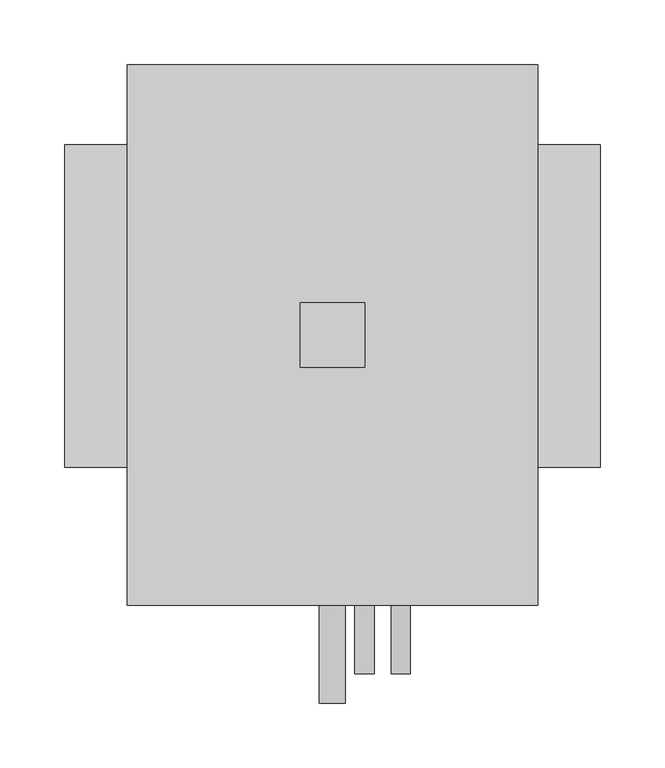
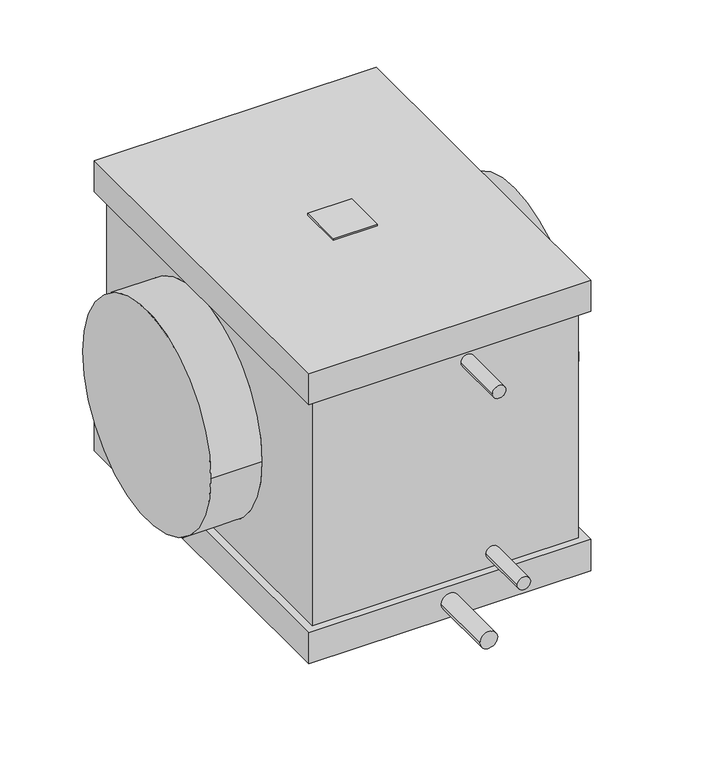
"""IFC4 building model written with IfcOpenShell, lengths in millimetres: proxy geometry, KORF_Охладитель_Водяной_Круглый_Левый_KWLO : KWLO 250/2."""

from ifc_helpers import new_model, si_unit, point, frame, frame_2d, origin, place, context, project, spatial, polyline, circle_curve, trimmed, segment, composite_curve, outline, extrude, source, transform, mapped, element, save
from ifc_brep_helpers import plane_surface, cylinder_surface, advanced_brep


def mechanical_equipment_b719484e(model_context):
    return source(origin(), model_context, "Body", "SolidModel", [
        extrude(outline(polyline([(232.5, 2.5), (232.5, -47.5), (182.5, -47.5), (182.5, 2.5), (232.5, 2.5)])), frame((0.0, 0.0, 173.0), z_axis=(0.0, 0.0, 1.0), x_axis=(1.0, 0.0, 0.0)), (0.0, 0.0, 1.0), 2.0),
        advanced_brep(
        [(415.0, -125.0, 0.0), (415.0, 125.0, 0.0), (0.0, -125.0, 0.0), (0.0, 125.0, 0.0), (357.5, -125.0, 0.0), (357.5, 125.0, 0.0), (57.5, 125.0, 0.0), (57.5, -125.0, 0.0), (357.5, -223.0, -136.0), (357.5, 178.0, -136.0), (357.5, 178.0, 136.0), (357.5, -223.0, 136.0), (57.5, 178.0, -136.0), (57.5, -223.0, -136.0), (57.5, -223.0, 136.0), (57.5, 178.0, 136.0), (366.5, 187.0, -173.0), (366.5, -232.0, -173.0), (48.5, -232.0, -173.0), (48.5, 187.0, -173.0), (366.5, -232.0, 173.0), (366.5, 187.0, 173.0), (48.5, 187.0, 173.0), (48.5, -232.0, 173.0), (366.5, 187.0, -136.0), (366.5, -232.0, -136.0), (48.5, -232.0, -136.0), (48.5, 187.0, -136.0), (366.5, 187.0, 136.0), (366.5, -232.0, 136.0), (48.5, -232.0, 136.0), (48.5, 187.0, 136.0)],
        [
            (0, 1, circle_curve(frame((415.0, 0.0, 0.0), z_axis=(1.0, 0.0, 0.0), x_axis=(0.0, 1.0, 0.0)), 125.0)),
            (1, 0, circle_curve(frame((415.0, 0.0, 0.0), z_axis=(1.0, 0.0, 0.0), x_axis=(0.0, 1.0, 0.0)), 125.0)),
            (2, 3, circle_curve(frame((0.0, 0.0, 0.0), z_axis=(-1.0, 0.0, 0.0), x_axis=(0.0, 1.0, 0.0)), 125.0)),
            (3, 2, circle_curve(frame((0.0, 0.0, 0.0), z_axis=(-1.0, 0.0, 0.0), x_axis=(0.0, 1.0, 0.0)), 125.0)),
            (0, 4),
            (4, 5, circle_curve(frame((357.5, 0.0, 0.0), z_axis=(1.0, 0.0, 0.0), x_axis=(0.0, 1.0, 0.0)), 125.0)),
            (5, 1),
            (3, 6),
            (6, 7, circle_curve(frame((57.5, 0.0, 0.0), z_axis=(-1.0, 0.0, 0.0), x_axis=(0.0, 1.0, 0.0)), 125.0)),
            (7, 2),
            (5, 4, circle_curve(frame((357.5, 0.0, 0.0), z_axis=(1.0, 0.0, 0.0), x_axis=(0.0, 1.0, 0.0)), 125.0)),
            (7, 6, circle_curve(frame((57.5, 0.0, 0.0), z_axis=(-1.0, 0.0, 0.0), x_axis=(0.0, 1.0, 0.0)), 125.0)),
            (8, 9),
            (9, 10),
            (10, 11),
            (11, 8),
            (12, 13),
            (13, 14),
            (14, 15),
            (15, 12),
            (13, 8),
            (11, 14),
            (16, 17),
            (17, 18),
            (18, 19),
            (19, 16),
            (9, 12),
            (15, 10),
            (20, 21),
            (21, 22),
            (22, 23),
            (23, 20),
            (16, 24),
            (24, 25),
            (25, 17),
            (25, 26),
            (26, 18),
            (26, 27),
            (27, 19),
            (24, 27),
            (28, 21),
            (20, 29),
            (29, 28),
            (23, 30),
            (30, 29),
            (22, 31),
            (31, 30),
            (28, 31),
        ],
        [
            plane_surface(frame((415.0, 125.0, 0.0), z_axis=(1.0, 0.0, 0.0), x_axis=(0.0, 0.0, 1.0))),
            plane_surface(frame((0.0, 125.0, 0.0), z_axis=(-1.0, 0.0, 0.0), x_axis=(0.0, 0.0, -1.0))),
            cylinder_surface(frame((0.0, 0.0, 0.0), z_axis=(1.0, 0.0, 0.0), x_axis=(0.0, 1.0, 0.0)), 125.0),
            plane_surface(frame((357.5, -223.0, 173.0), z_axis=(1.0, 0.0, 0.0), x_axis=(0.0, 0.0, -1.0))),
            plane_surface(frame((57.5, -223.0, 173.0), z_axis=(-1.0, 0.0, 0.0), x_axis=(0.0, 0.0, 1.0))),
            plane_surface(frame((357.5, -223.0, 173.0), z_axis=(0.0, -1.0, 0.0), x_axis=(-1.0, 0.0, 0.0))),
            plane_surface(frame((357.5, -223.0, -173.0), z_axis=(0.0, 0.0, -1.0), x_axis=(-1.0, 0.0, 0.0))),
            plane_surface(frame((357.5, 178.0, -173.0), z_axis=(0.0, 1.0, 0.0), x_axis=(-1.0, 0.0, 0.0))),
            plane_surface(frame((357.5, 178.0, 173.0), z_axis=(0.0, 0.0, 1.0), x_axis=(-1.0, 0.0, 0.0))),
            plane_surface(frame((366.5, 187.0, -136.0), z_axis=(1.0, 0.0, 0.0), x_axis=(0.0, -1.0, 0.0))),
            plane_surface(frame((366.5, -232.0, -136.0), z_axis=(0.0, -1.0, 0.0), x_axis=(-1.0, 0.0, 0.0))),
            plane_surface(frame((48.5, -232.0, -136.0), z_axis=(-1.0, 0.0, 0.0), x_axis=(0.0, 1.0, 0.0))),
            plane_surface(frame((57.5, 178.0, -136.0), z_axis=(0.0, 0.0, 1.0), x_axis=(1.0, 0.0, 0.0))),
            plane_surface(frame((48.5, 187.0, -136.0), z_axis=(0.0, 1.0, 0.0), x_axis=(1.0, 0.0, 0.0))),
            plane_surface(frame((366.5, 187.0, 173.0), z_axis=(1.0, 0.0, 0.0), x_axis=(0.0, -1.0, 0.0))),
            plane_surface(frame((366.5, -232.0, 173.0), z_axis=(0.0, -1.0, 0.0), x_axis=(-1.0, 0.0, 0.0))),
            plane_surface(frame((48.5, -232.0, 173.0), z_axis=(-1.0, 0.0, 0.0), x_axis=(0.0, 1.0, 0.0))),
            plane_surface(frame((48.5, 187.0, 173.0), z_axis=(0.0, 1.0, 0.0), x_axis=(1.0, 0.0, 0.0))),
            plane_surface(frame((48.5, 187.0, 136.0), z_axis=(0.0, 0.0, -1.0), x_axis=(1.0, 0.0, 0.0))),
        ],
        [
            (0, [[1, 2]]),
            (1, [[3, 4]]),
            (2, [[-1, 5, 6, 7]]),
            (2, [[-4, 8, 9, 10]]),
            (2, [[-2, -7, 11, -5]]),
            (2, [[-3, -10, 12, -8]]),
            (3, [[13, 14, 15, 16], [-6, -11]]),
            (4, [[17, 18, 19, 20], [-9, -12]]),
            (5, [[21, -16, 22, -18]]),
            (6, [[23, 24, 25, 26]]),
            (7, [[27, -20, 28, -14]]),
            (8, [[29, 30, 31, 32]]),
            (9, [[33, 34, 35, -23]]),
            (10, [[-35, 36, 37, -24]]),
            (11, [[-37, 38, 39, -25]]),
            (12, [[-34, 40, -38, -36], [-13, -21, -17, -27]]),
            (13, [[-33, -26, -39, -40]]),
            (14, [[41, -29, 42, 43]]),
            (15, [[-42, -32, 44, 45]]),
            (16, [[-44, -31, 46, 47]]),
            (17, [[-41, 48, -46, -30]]),
            (18, [[-43, -45, -47, -48], [-15, -28, -19, -22]]),
        ],
    ),
        extrude(outline(composite_curve([segment(trimmed(circle_curve(frame_2d((-119.0, 260.5)), 7.5), [point((-119.0, 253.0))], [point((-119.0, 268.0))], False, "CARTESIAN"), True, "CONTINUOUS"), segment(trimmed(circle_curve(frame_2d((-119.0, 260.5)), 7.5), [point((-119.0, 268.0))], [point((-119.0, 253.0))], False, "CARTESIAN"), True, "CONTINUOUS")], self_intersect=False)), frame((0.0, -285.0, 0.0), z_axis=(0.0, 1.0, 0.0), x_axis=(0.0, 0.0, 1.0)), (0.0, 0.0, 1.0), 62.0),
        extrude(outline(composite_curve([segment(trimmed(circle_curve(frame_2d((119.0, 232.5)), 7.5), [point((119.0, 225.0))], [point((119.0, 240.0))], False, "CARTESIAN"), True, "CONTINUOUS"), segment(trimmed(circle_curve(frame_2d((119.0, 232.5)), 7.5), [point((119.0, 240.0))], [point((119.0, 225.0))], False, "CARTESIAN"), True, "CONTINUOUS")], self_intersect=False)), frame((0.0, -285.0, 0.0), z_axis=(0.0, 1.0, 0.0), x_axis=(0.0, 0.0, 1.0)), (0.0, 0.0, 1.0), 62.0),
        extrude(outline(composite_curve([segment(trimmed(circle_curve(frame_2d((-154.0, 207.5)), 10.0), [point((-154.0, 197.5))], [point((-154.0, 217.5))], False, "CARTESIAN"), True, "CONTINUOUS"), segment(trimmed(circle_curve(frame_2d((-154.0, 207.5)), 10.0), [point((-154.0, 217.5))], [point((-154.0, 197.5))], False, "CARTESIAN"), True, "CONTINUOUS")], self_intersect=False)), frame((0.0, -308.0, 0.0), z_axis=(0.0, 1.0, 0.0), x_axis=(0.0, 0.0, 1.0)), (0.0, 0.0, 1.0), 76.0),
    ])


if __name__ == "__main__":
    model = new_model("IFC4")
    model_context = context("Model", 3, world=origin())
    ifc_project = project(units=[si_unit("LENGTHUNIT", "METRE", prefix="MILLI")], contexts=[model_context])
    site = spatial("IfcSite", under=ifc_project)
    building = spatial("IfcBuilding", under=site)
    placement = place(None, origin())
    mechanical_equipment_shape = mechanical_equipment_b719484e(model_context)
    element("IfcBuildingElementProxy", 1, Name="KORF_Охладитель_Водяной_Круглый_Левый_KWLO : KWLO 250/2", ObjectType="KORF_Охладитель_Водяной_Круглый_Левый_KWLO : KWLO 250/2", at=placement, inside=building, context=model_context, shape_type="MappedRepresentation", body=[
        mapped(mechanical_equipment_shape, transform((0.0, 0.0, 0.0), x_axis=(1.0, 0.0, 0.0), y_axis=(0.0, 1.0, 0.0), z_axis=(0.0, 0.0, 1.0))),
    ])
    save(model, "model.ifc")
